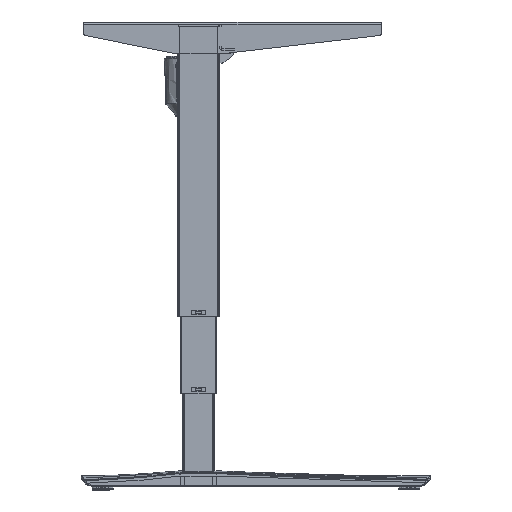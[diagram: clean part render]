
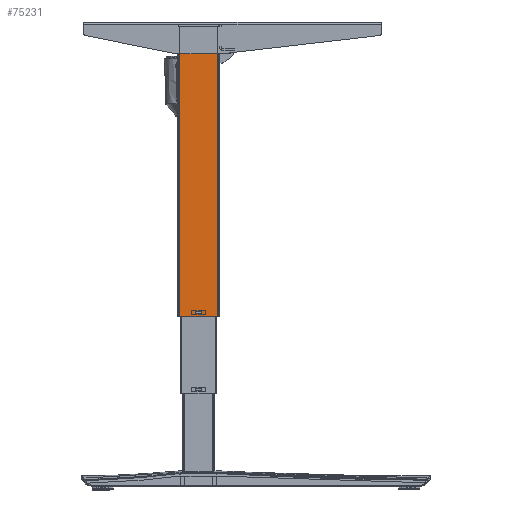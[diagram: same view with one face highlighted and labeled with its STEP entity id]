
A CAD part, left-side view. The second image highlights one B-rep face of the part: STEP entity #75231.
In plain terms, the highlighted planar face has unit normal (-1, 0, 0).
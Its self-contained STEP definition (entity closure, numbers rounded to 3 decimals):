
#637 = VERTEX_POINT ( 'NONE', #96861 ) ;
#1242 = LINE ( 'NONE', #91921, #13317 ) ;
#5851 = CARTESIAN_POINT ( 'NONE',  ( -30., 6., 6. ) ) ;
#8677 = ORIENTED_EDGE ( 'NONE', *, *, #60313, .F. ) ;
#11177 = LINE ( 'NONE', #12095, #30350 ) ;
#11773 = DIRECTION ( 'NONE',  ( 0., -1., 0. ) ) ;
#12095 = CARTESIAN_POINT ( 'NONE',  ( -30., 6., 10. ) ) ;
#12163 = CARTESIAN_POINT ( 'NONE',  ( -30., 40., 556. ) ) ;
#13317 = VECTOR ( 'NONE', #53115, 1000. ) ;
#13562 = ORIENTED_EDGE ( 'NONE', *, *, #57739, .T. ) ;
#13770 = VECTOR ( 'NONE', #34684, 1000. ) ;
#14840 = CARTESIAN_POINT ( 'NONE',  ( -30., 37., 561. ) ) ;
#19309 = VECTOR ( 'NONE', #83570, 1000. ) ;
#19696 = EDGE_CURVE ( 'NONE', #76620, #56606, #83770, .T. ) ;
#21267 = ORIENTED_EDGE ( 'NONE', *, *, #50222, .T. ) ;
#21870 = ORIENTED_EDGE ( 'NONE', *, *, #19696, .T. ) ;
#23309 = VECTOR ( 'NONE', #23407, 1000. ) ;
#23407 = DIRECTION ( 'NONE',  ( 0., 0., -1. ) ) ;
#25809 = FACE_OUTER_BOUND ( 'NONE', #42441, .T. ) ;
#30350 = VECTOR ( 'NONE', #11773, 1000. ) ;
#30631 = LINE ( 'NONE', #12163, #13770 ) ;
#33315 = EDGE_CURVE ( 'NONE', #88821, #56606, #1242, .T. ) ;
#34684 = DIRECTION ( 'NONE',  ( 0., -1., 0. ) ) ;
#38665 = VERTEX_POINT ( 'NONE', #58013 ) ;
#41193 = EDGE_LOOP ( 'NONE', ( #89367, #67840, #13562, #92174 ) ) ;
#42441 = EDGE_LOOP ( 'NONE', ( #58874, #8677, #21267, #21870 ) ) ;
#42469 = LINE ( 'NONE', #5851, #76311 ) ;
#44063 = CARTESIAN_POINT ( 'NONE',  ( -30., 37., 556. ) ) ;
#45038 = LINE ( 'NONE', #76725, #23309 ) ;
#46352 = EDGE_CURVE ( 'NONE', #92702, #68938, #42469, .T. ) ;
#46755 = DIRECTION ( 'NONE',  ( 1., 0., 0. ) ) ;
#47271 = CARTESIAN_POINT ( 'NONE',  ( -30., -37., 556. ) ) ;
#47501 = CARTESIAN_POINT ( 'NONE',  ( -30., 6., 10. ) ) ;
#50222 = EDGE_CURVE ( 'NONE', #56867, #76620, #72494, .T. ) ;
#51627 = LINE ( 'NONE', #47501, #90255 ) ;
#53115 = DIRECTION ( 'NONE',  ( 0., 0., -1. ) ) ;
#56606 = VERTEX_POINT ( 'NONE', #65100 ) ;
#56867 = VERTEX_POINT ( 'NONE', #44063 ) ;
#57739 = EDGE_CURVE ( 'NONE', #637, #92702, #45038, .T. ) ;
#58013 = CARTESIAN_POINT ( 'NONE',  ( -30., 6., 10. ) ) ;
#58874 = ORIENTED_EDGE ( 'NONE', *, *, #33315, .F. ) ;
#60313 = EDGE_CURVE ( 'NONE', #56867, #88821, #30631, .T. ) ;
#60865 = VECTOR ( 'NONE', #98724, 1000. ) ;
#62346 = DIRECTION ( 'NONE',  ( 0., 1., 0. ) ) ;
#65100 = CARTESIAN_POINT ( 'NONE',  ( -30., -37., 0. ) ) ;
#66161 = AXIS2_PLACEMENT_3D ( 'NONE', #77516, #46755, #62346 ) ;
#67840 = ORIENTED_EDGE ( 'NONE', *, *, #98863, .T. ) ;
#68067 = EDGE_CURVE ( 'NONE', #68938, #38665, #51627, .T. ) ;
#68938 = VERTEX_POINT ( 'NONE', #82096 ) ;
#71845 = DIRECTION ( 'NONE',  ( 0., 0., 1. ) ) ;
#72494 = LINE ( 'NONE', #14840, #19309 ) ;
#74638 = DIRECTION ( 'NONE',  ( 0., 1., 0. ) ) ;
#75231 = ADVANCED_FACE ( 'NONE', ( #81412, #25809 ), #92632, .F. ) ;
#76311 = VECTOR ( 'NONE', #74638, 1000. ) ;
#76620 = VERTEX_POINT ( 'NONE', #79539 ) ;
#76725 = CARTESIAN_POINT ( 'NONE',  ( -30., -6., 10. ) ) ;
#77516 = CARTESIAN_POINT ( 'NONE',  ( -30., 37., 561. ) ) ;
#79539 = CARTESIAN_POINT ( 'NONE',  ( -30., 37., 0. ) ) ;
#81412 = FACE_BOUND ( 'NONE', #41193, .T. ) ;
#82096 = CARTESIAN_POINT ( 'NONE',  ( -30., 6., 6. ) ) ;
#83570 = DIRECTION ( 'NONE',  ( 0., 0., -1. ) ) ;
#83770 = LINE ( 'NONE', #91665, #60865 ) ;
#88821 = VERTEX_POINT ( 'NONE', #47271 ) ;
#89367 = ORIENTED_EDGE ( 'NONE', *, *, #68067, .T. ) ;
#90255 = VECTOR ( 'NONE', #71845, 1000. ) ;
#91665 = CARTESIAN_POINT ( 'NONE',  ( -30., 37., 0. ) ) ;
#91921 = CARTESIAN_POINT ( 'NONE',  ( -30., -37., 561. ) ) ;
#92174 = ORIENTED_EDGE ( 'NONE', *, *, #46352, .T. ) ;
#92632 = PLANE ( 'NONE',  #66161 ) ;
#92702 = VERTEX_POINT ( 'NONE', #97990 ) ;
#96861 = CARTESIAN_POINT ( 'NONE',  ( -30., -6., 10. ) ) ;
#97990 = CARTESIAN_POINT ( 'NONE',  ( -30., -6., 6. ) ) ;
#98724 = DIRECTION ( 'NONE',  ( 0., -1., 0. ) ) ;
#98863 = EDGE_CURVE ( 'NONE', #38665, #637, #11177, .T. ) ;
